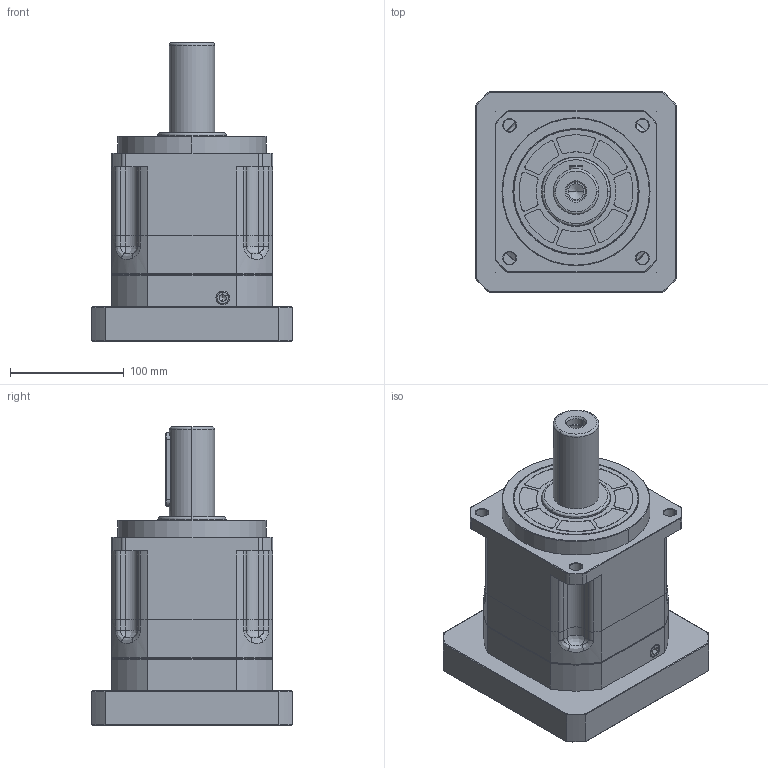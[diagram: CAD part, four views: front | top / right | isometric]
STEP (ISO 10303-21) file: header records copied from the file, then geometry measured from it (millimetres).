
FILE_DESCRIPTION (( 'STEP AP214' ), '1' );
FILE_NAME ('OB142L1-114.3-35-M12.STEP', '2020-08-17T07:58:59', ( '微软用户' ), ( '微软中国' ), 'SwSTEP 2.0', 'SolidWorks 2014', '' );
FILE_SCHEMA (( 'AUTOMOTIVE_DESIGN' ));
Length unit declared in the file: millimetre
Products named in the file (81): Deep groove ball bearings GB_Rolling bearings 6212 GB 276-94; 俴陎謫菜え13.6X27; Circlips for hole--Type B GB_GB_CONNECTING_PIECE_RINGS_CHB 110; Spring lock washers--Normal type GB_GB_FASTENER_WASHER_SW 10; 怀堤粣5; 蚐猾60X110X12; Circlips for hole--Type B GB_GB_CONNECTING_PIECE_RINGS_CHB 80; 一级齿圈Z108; 俴陎粣13.513; 薊粣ん35; Plain parallel keys_GB_CONNECTING_PIECE_KEYS_CSK C6X18; OB142L1-114.3-35-M12; 笢潔楊擘; Hexagon socket head cap screws GB_GB_FASTENER_SCREWS_HSHCS M8X35-N; Circlips for shaft--Type A large GB_GB_CONNECTING_PIECE_RING_RRA 55; 俴陎謫5; 萇儂楊擘D114.3M12; 薊粣ん菜え35; Deep groove ball bearings GB_Rolling bearings 6011 GB 276-94; Hexagon socket head cap screws GB_GB_FASTENER_SCREWS_HSHCS M10X35-N; Deep groove ball bearings GB_Rolling bearings 61821 GB 276-94; Spring lock washers--Normal type GB_GB_FASTENER_WASHER_SW 8; 幗渀粣創13.513X18.513; Hexagon socket head cap screws GB_GB_FASTENER_SCREWS_HSHCS M10X30-N; 怮栠謫5; Hex socket set screws with flat point GB_GB_FASTENER_SCREWS_HSFP M12X16-N; Plain parallel keys_GB_CONNECTING_PIECE_KEYS_CSK 12X63
Assembly tree (54 placements, depth 2):
  Deep groove ball bearings GB_Rolling bearings 6212 GB 276-94
  俴陎謫菜え13.6X27
  Spring lock washers--Normal type GB_GB_FASTENER_WASHER_SW 10
  怀堤粣5
  俴陎謫菜え13.6X27
Bounding box: 176 x 176 x 262 mm (x, y, z)
Volume: 2917955.4 mm3; surface area: 607086.6 mm2
Topology: 54 solids, 54 shells, 1920 faces, 6110 edges, 3717 vertices
Faces by surface type: cylinder 601, bspline 569, plane 490, cone 228, torus 32
Entity records: 75740 total; most frequent: CARTESIAN_POINT 34042, ORIENTED_EDGE 9568, DIRECTION 7268, EDGE_CURVE 4784, VERTEX_POINT 3174, AXIS2_PLACEMENT_3D 3112, CIRCLE 2067, EDGE_LOOP 1694
